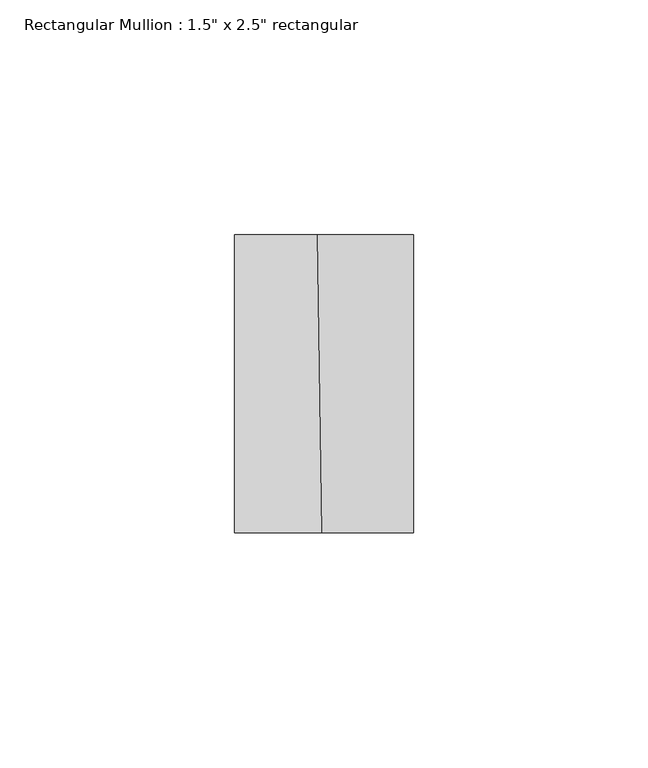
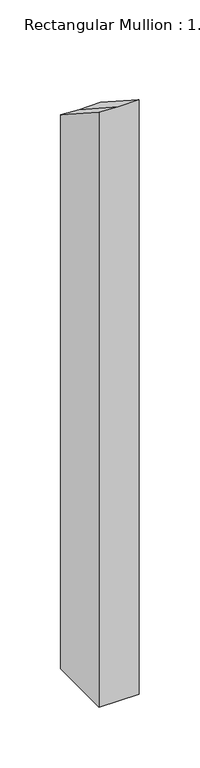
"""IFC4 building model written with IfcOpenShell, lengths in millimetres: member geometry."""

import ifcopenshell
import ifcopenshell.guid

model = None  # the IFC model being written
_history = None  # IfcOwnerHistory: only IFC2X3 demands one
_inside = {}  # id of a spatial element -> (the spatial element, [elements in it])
_under = {}  # id of a project, library or spatial element -> (it, [spatial elements below it])
_declared = {}  # id of a project -> (the project, [libraries it declares])
_typed = {}  # id of a type object -> (the type object, [elements of that type])
_made_of = {}  # id of a material, layer set ... -> (it, [elements and type objects made of it])


def new_model(schema):
    """Start an empty IFC model of exactly this schema.

    Asked for "IFC4X3", IfcOpenShell would pick the latest addendum, in which some entities
    have other attributes; the version numbers below select the first issue.
    IFC2X3 requires an IfcOwnerHistory on every rooted entity: one is made here for all.
    """
    global model, _history
    if schema == "IFC4X3":
        model = ifcopenshell.file(schema_version=(4, 3, 0, 0))
    else:
        model = ifcopenshell.file(schema=schema)
    _inside.clear()
    _under.clear()
    _declared.clear()
    _typed.clear()
    _made_of.clear()
    _history = None
    if model.schema == "IFC2X3":
        org = make("IfcOrganization", Name="unknown")
        user = make(
            "IfcPersonAndOrganization",
            ThePerson=make("IfcPerson", FamilyName="unknown"),
            TheOrganization=org,
        )
        app = make(
            "IfcApplication",
            ApplicationDeveloper=org,
            Version="unknown",
            ApplicationFullName="unknown",
            ApplicationIdentifier="unknown",
        )
        _history = make(
            "IfcOwnerHistory",
            OwningUser=user,
            OwningApplication=app,
            ChangeAction="ADDED",
            CreationDate=0,
        )
    return model


def make(cls, **values):
    """One entity of the class cls with the attributes given. An attribute that is None is left unset."""
    return model.create_entity(
        cls, **{name: value for name, value in values.items() if value is not None}
    )


def rooted(cls, **values):
    """An entity with a GlobalId (a new one), such as an element, a storey or a relation."""
    return make(cls, GlobalId=ifcopenshell.guid.new(), OwnerHistory=_history, **values)


def si_unit(unit_type, name, prefix=None):
    """IfcSIUnit, for example si_unit("LENGTHUNIT", "METRE", prefix="MILLI")."""
    return make("IfcSIUnit", UnitType=unit_type, Prefix=prefix, Name=name)


def assignment(units):
    """IfcUnitAssignment: the units of a project."""
    return None if units is None else make("IfcUnitAssignment", Units=units)


def point(xyz):
    """IfcCartesianPoint."""
    return None if xyz is None else make("IfcCartesianPoint", Coordinates=xyz)


def direction(xyz):
    """IfcDirection."""
    return None if xyz is None else make("IfcDirection", DirectionRatios=xyz)


def frame(location, z_axis=None, x_axis=None):
    """IfcAxis2Placement3D, a coordinate frame: its origin and axes. An axis left out is left unset."""
    return make(
        "IfcAxis2Placement3D",
        Location=point(location),
        Axis=direction(z_axis),
        RefDirection=direction(x_axis),
    )


def origin():
    """The frame at (0, 0, 0) with its axes left unset."""
    return frame((0.0, 0.0, 0.0))


def place(relative_to, where):
    """IfcLocalPlacement: puts the frame where relative to a parent placement (None: the world)."""
    return make(
        "IfcLocalPlacement", PlacementRelTo=relative_to, RelativePlacement=where
    )


def context(
    kind, dimensions, precision=None, world=None, true_north=None, identifier=None
):
    """IfcGeometricRepresentationContext, for example the 3D "Model" context."""
    return make(
        "IfcGeometricRepresentationContext",
        ContextIdentifier=identifier,
        ContextType=kind,
        CoordinateSpaceDimension=dimensions,
        Precision=precision,
        WorldCoordinateSystem=world,
        TrueNorth=true_north,
    )


def project(units=None, contexts=None):
    """IfcProject with its units and contexts."""
    return rooted(
        "IfcProject",
        Name="project",
        RepresentationContexts=contexts,
        UnitsInContext=assignment(units),
    )


def spatial(cls, under=None, at=None, **own):
    """A site, building, storey or space (cls), placed at a placement, below another one or the project."""
    s = rooted(cls, ObjectPlacement=at, **own)
    if under is not None:
        _under.setdefault(under.id(), (under, []))[1].append(s)
    return s


def faces_of(points, faces, orient=None, outer=None):
    """IfcFace entities. A face is a list of loops; a loop is a list of indices into points, from 0.

    orient and outer hold one flag for each loop. By default every Orientation is true, the
    first loop of a face is its IfcFaceOuterBound and the others are IfcFaceBound.
    """
    made = []
    for i, loops in enumerate(faces):
        bounds = []
        for j, loop in enumerate(loops):
            is_outer = j == 0 if outer is None else outer[i][j]
            bounds.append(
                make(
                    "IfcFaceOuterBound" if is_outer else "IfcFaceBound",
                    Bound=make("IfcPolyLoop", Polygon=[points[k] for k in loop]),
                    Orientation=True if orient is None else orient[i][j],
                )
            )
        made.append(make("IfcFace", Bounds=bounds))
    return made


def faceted_brep(points, faces, orient=None, outer=None, voids=None):
    """IfcFacetedBrep: a solid bounded by flat faces; with voids (closed shells), ...WithVoids."""
    shared = [point(p) for p in points]
    hull = make("IfcClosedShell", CfsFaces=faces_of(shared, faces, orient, outer))
    if voids is None:
        return make("IfcFacetedBrep", Outer=hull)
    return make(
        "IfcFacetedBrepWithVoids",
        Outer=hull,
        Voids=[
            make(cls, CfsFaces=faces_of(shared, fs, o, b)) for cls, fs, o, b in voids
        ],
    )


def shape(context_of_items, identifier, shape_type, items):
    """IfcShapeRepresentation: the items that make up one representation, for example the "Body"."""
    return make(
        "IfcShapeRepresentation",
        ContextOfItems=context_of_items,
        RepresentationIdentifier=identifier,
        RepresentationType=shape_type,
        Items=items,
    )


def source(mapping_origin, context_of_items, identifier, shape_type, items):
    """IfcRepresentationMap: a shape defined once, which mapped items show again and again."""
    return make(
        "IfcRepresentationMap",
        MappingOrigin=mapping_origin,
        MappedRepresentation=shape(context_of_items, identifier, shape_type, items),
    )


def transform(
    local_origin,
    x_axis=None,
    y_axis=None,
    z_axis=None,
    scale=None,
    scale2=None,
    scale3=None,
    uniform=True,
):
    """IfcCartesianTransformationOperator3D, or its non-uniform kind. x_axis, y_axis, z_axis: its Axis1, 2, 3."""
    if uniform:
        return make(
            "IfcCartesianTransformationOperator3D",
            Axis1=direction(x_axis),
            Axis2=direction(y_axis),
            LocalOrigin=point(local_origin),
            Scale=scale,
            Axis3=direction(z_axis),
        )
    return make(
        "IfcCartesianTransformationOperator3DnonUniform",
        Axis1=direction(x_axis),
        Axis2=direction(y_axis),
        LocalOrigin=point(local_origin),
        Scale=scale,
        Axis3=direction(z_axis),
        Scale2=scale2,
        Scale3=scale3,
    )


def mapped(mapping_source, mapping_target):
    """IfcMappedItem: shows the shape of a source again, moved by a transform."""
    return make(
        "IfcMappedItem", MappingSource=mapping_source, MappingTarget=mapping_target
    )


def made_of(thing, what):
    """Note that an element or type object is made of a material, layer set ...; save() writes the relation."""
    if what is not None:
        _made_of.setdefault(what.id(), (what, []))[1].append(thing)
    return thing


def element(
    cls,
    number,
    at=None,
    inside=None,
    cuts=None,
    type_object=None,
    material=None,
    context=None,
    identifier="Body",
    shape_type=None,
    held_by="IfcProductDefinitionShape",
    body=None,
    shapes=None,
    **own,
):
    """One element of the class cls, such as IfcWall. Its Tag is "e" and its number.

    at: its placement. inside: the storey or other place that contains it. cuts: it is an
    opening in that element (IfcRelVoidsElement). A single representation is given by context,
    identifier, shape_type and body (its items); several are given by shapes. held_by: the class
    of the entity that holds the representations. save() writes the other relations.
    """
    e = rooted(cls, Tag="e%d" % number, ObjectPlacement=at, **own)
    if body is not None:
        shapes = [shape(context, identifier, shape_type, body)]
    if shapes is not None:
        e.Representation = make(held_by, Representations=shapes)
    if inside is not None:
        _inside.setdefault(inside.id(), (inside, []))[1].append(e)
    if cuts is not None:
        rooted(
            "IfcRelVoidsElement", RelatingBuildingElement=cuts, RelatedOpeningElement=e
        )
    if type_object is not None:
        _typed.setdefault(type_object.id(), (type_object, []))[1].append(e)
    return made_of(e, material)


def aggregate(whole, parts):
    """IfcRelAggregates: a whole, such as a stair, and the parts it consists of."""
    return rooted("IfcRelAggregates", RelatingObject=whole, RelatedObjects=parts)


def save(model, path):
    """Write the relations noted so far, then the file.

    IfcRelAggregates (storeys below a building ...), IfcRelContainedInSpatialStructure (elements
    in a storey), IfcRelDefinesByType, IfcRelAssociatesMaterial and IfcRelDeclares: one each for
    every whole, place, type object, material and project.
    """
    for whole, parts in _under.values():
        aggregate(whole, parts)
    for where, things in _inside.values():
        rooted(
            "IfcRelContainedInSpatialStructure",
            RelatedElements=things,
            RelatingStructure=where,
        )
    for kind, things in _typed.values():
        rooted("IfcRelDefinesByType", RelatedObjects=things, RelatingType=kind)
    for what, things in _made_of.values():
        rooted("IfcRelAssociatesMaterial", RelatedObjects=things, RelatingMaterial=what)
    for by, libraries in _declared.values():
        rooted("IfcRelDeclares", RelatingContext=by, RelatedDefinitions=libraries)
    model.write(path)


def member_9d38573e(model_context):
    return source(origin(), model_context, "Body", "Brep", [
        faceted_brep([(19.05, 31.75, -614.2572434), (19.05, -31.75, -614.2572434), (-19.05, -31.75, -614.2572434), (-19.05, 31.75, -614.2572434), (-19.05, 31.75, -57.0812495), (-1.3818249, 31.75, -58.1393591), (19.05, 31.75, -57.8882298), (-19.05, -31.75, -16.2353167), (19.05, -31.75, -17.112269), (-0.4124007, -31.75, -17.351483)], [[[0, 1, 2, 3]], [[4, 5, 6, 0, 3]], [[7, 4, 3, 2]], [[8, 9, 7, 2, 1]], [[6, 8, 1, 0]], [[6, 5, 9, 8]], [[5, 4, 7, 9]]]),
    ])


if __name__ == "__main__":
    model = new_model("IFC4")
    model_context = context("Model", 3, world=origin())
    ifc_project = project(units=[si_unit("LENGTHUNIT", "METRE", prefix="MILLI")], contexts=[model_context])
    site = spatial("IfcSite", under=ifc_project)
    building = spatial("IfcBuilding", under=site)
    placement = place(None, origin())
    member_shape = member_9d38573e(model_context)
    element("IfcMember", 1, ObjectType="Rectangular Mullion : 1.5\" x 2.5\" rectangular", at=placement, inside=building, context=model_context, shape_type="MappedRepresentation", body=[
        mapped(member_shape, transform((0.0, 0.0, 0.0), x_axis=(1.0, 0.0, 0.0), y_axis=(0.0, 1.0, 0.0), z_axis=(0.0, 0.0, 1.0))),
    ])
    save(model, "model.ifc")
